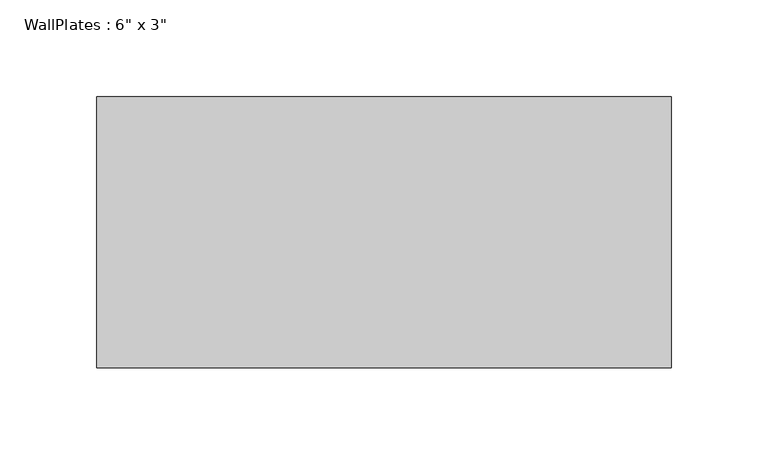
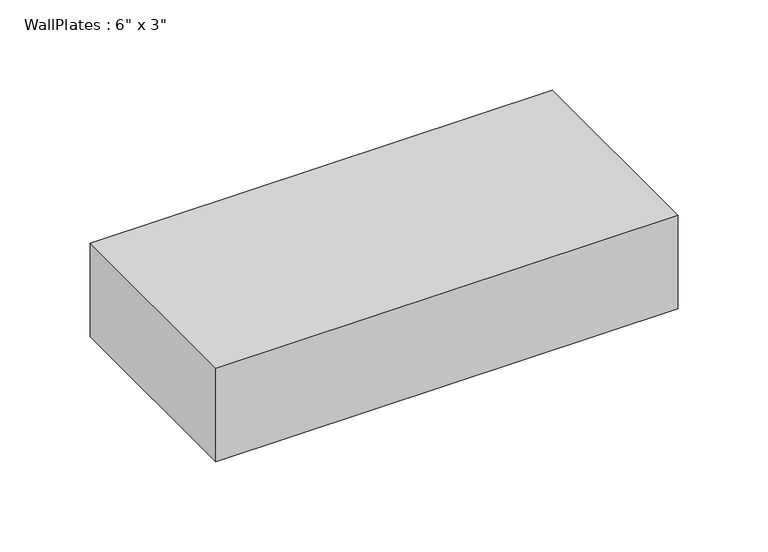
"""IFC4 building model written with IfcOpenShell, lengths in millimetres: beam geometry."""

from ifc_helpers import new_model, si_unit, frame, origin, place, context, project, spatial, polyline, outline, extrude, source, transform, mapped, element, save


def beam_844bd07f(model_context):
    return source(origin(), model_context, "Body", "SweptSolid", [
        extrude(outline(polyline([(-148.1616667, -69.85), (-148.1616667, 69.85), (148.1616667, 69.85), (148.1616667, -69.85), (-148.1616667, -69.85)])), frame((0.0, 0.0, -31.75), z_axis=(0.0, 0.0, 1.0), x_axis=(1.0, 0.0, 0.0)), (0.0, 0.0, 1.0), 63.5),
    ])


if __name__ == "__main__":
    model = new_model("IFC4")
    model_context = context("Model", 3, world=origin())
    ifc_project = project(units=[si_unit("LENGTHUNIT", "METRE", prefix="MILLI")], contexts=[model_context])
    site = spatial("IfcSite", under=ifc_project)
    building = spatial("IfcBuilding", under=site)
    placement = place(None, origin())
    beam_shape = beam_844bd07f(model_context)
    element("IfcBeam", 1, ObjectType="WallPlates : 6\" x 3\"", at=placement, inside=building, context=model_context, shape_type="MappedRepresentation", body=[
        mapped(beam_shape, transform((0.0, 0.0, 0.0), x_axis=(1.0, 0.0, 0.0), y_axis=(0.0, 1.0, 0.0), z_axis=(0.0, 0.0, 1.0))),
    ])
    save(model, "model.ifc")
